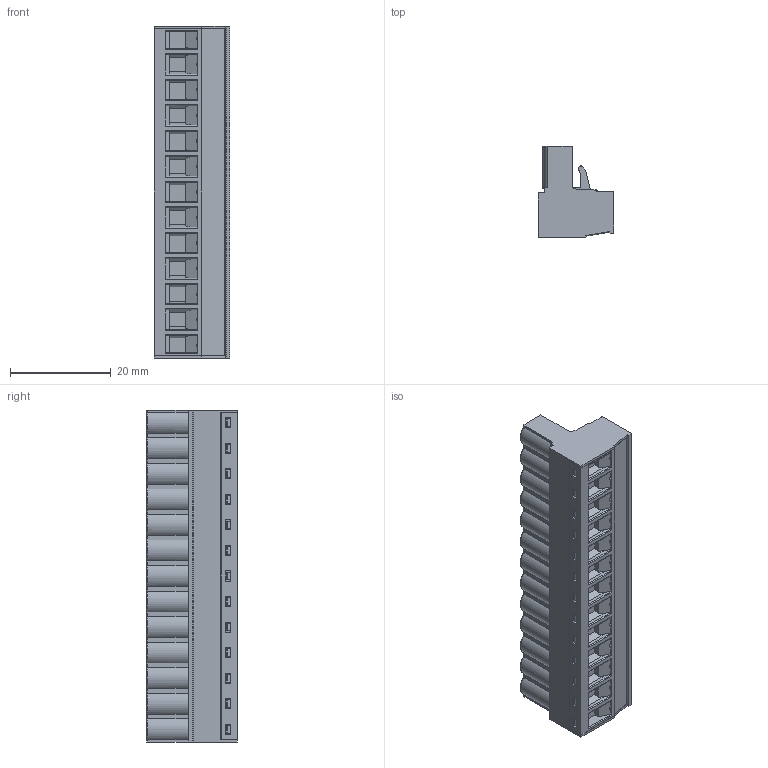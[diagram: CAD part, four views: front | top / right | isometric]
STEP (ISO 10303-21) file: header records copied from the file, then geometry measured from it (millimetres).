
FILE_DESCRIPTION (( 'STEP AP203' ), '1' );
FILE_NAME ('BR8F1-13.STEP', '2020-03-04T02:10:35', ( '' ), ( '' ), 'SwSTEP 2.0', 'SolidWorks 2019', '' );
FILE_SCHEMA (( 'CONFIG_CONTROL_DESIGN' ));
Products named in the file (1): BR8F1-13
Bounding box: 15.05 x 18.1 x 66.04 mm (x, y, z)
Volume: 10492.8 mm3; surface area: 8707.9 mm2
Topology: 1 solids, 1 shells, 1693 faces, 4503 edges, 2890 vertices
Faces by surface type: plane 1041, cylinder 418, cone 104, torus 78, sphere 52
Entity records: 53426 total; most frequent: CARTESIAN_POINT 10795, ORIENTED_EDGE 9006, DIRECTION 8655, EDGE_CURVE 4503, LINE 3267, VECTOR 3267, VERTEX_POINT 2890, AXIS2_PLACEMENT_3D 2694
